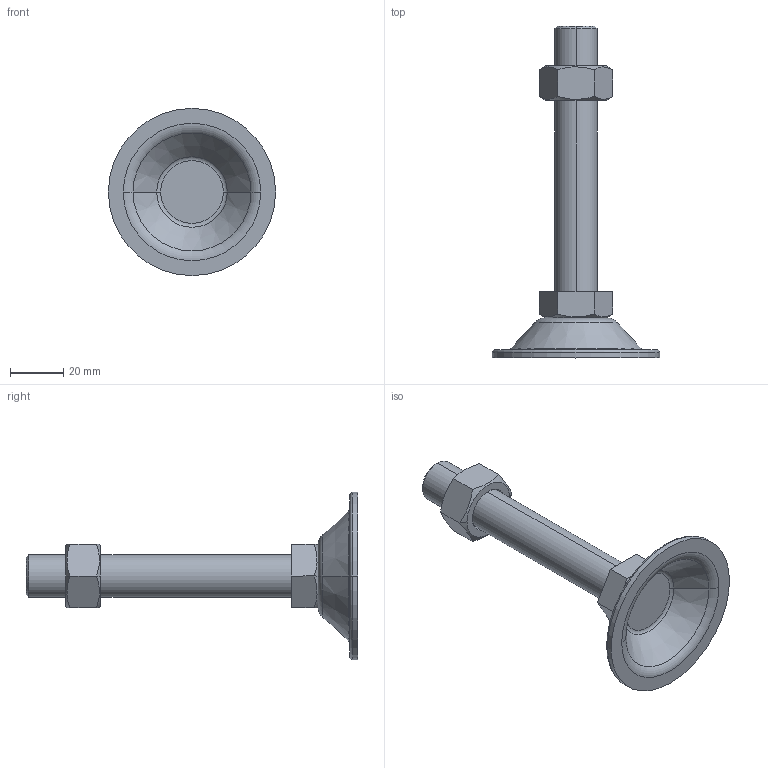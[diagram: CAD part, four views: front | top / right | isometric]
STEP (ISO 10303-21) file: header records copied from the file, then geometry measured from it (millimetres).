
FILE_DESCRIPTION (( 'STEP AP214' ), '1' );
FILE_NAME ('BL63-M16-100.step', '2021-01-06T05:38:44', ( '' ), ( '' ), 'SwSTEP 2.0', 'SolidWorks 2019', '' );
FILE_SCHEMA (( 'AUTOMOTIVE_DESIGN' ));
Length unit declared in the file: millimetre
Products named in the file (1): BL63-M16-100
Bounding box: 63 x 125 x 63 mm (x, y, z)
Volume: 39862.8 mm3; surface area: 16893.1 mm2
Topology: 3 solids, 3 shells, 53 faces, 110 edges, 66 vertices
Faces by surface type: plane 21, cone 16, torus 10, cylinder 6
Entity records: 1618 total; most frequent: CARTESIAN_POINT 428, DIRECTION 252, ORIENTED_EDGE 220, EDGE_CURVE 110, AXIS2_PLACEMENT_3D 106, VERTEX_POINT 66, EDGE_LOOP 58, ADVANCED_FACE 53
